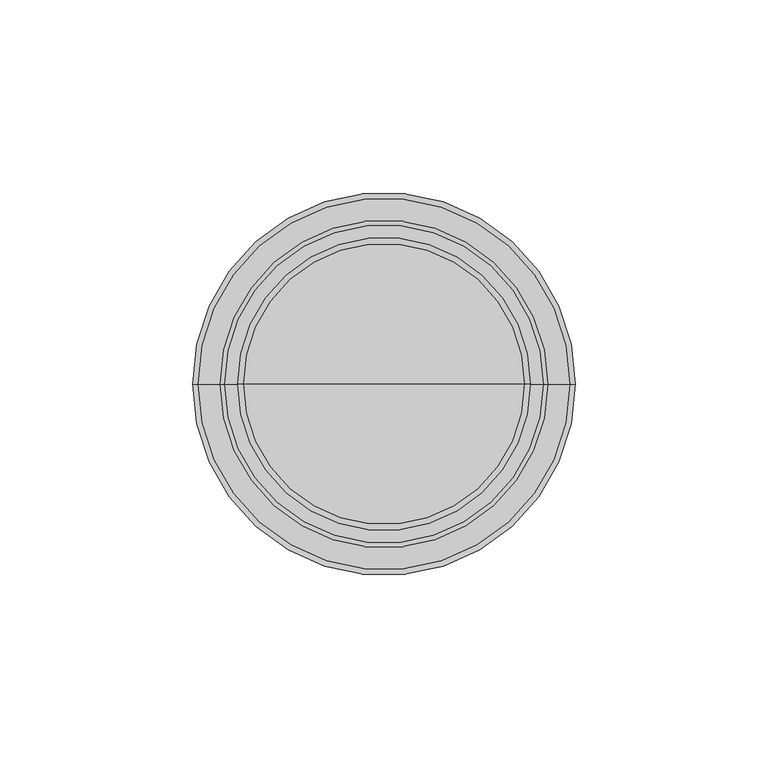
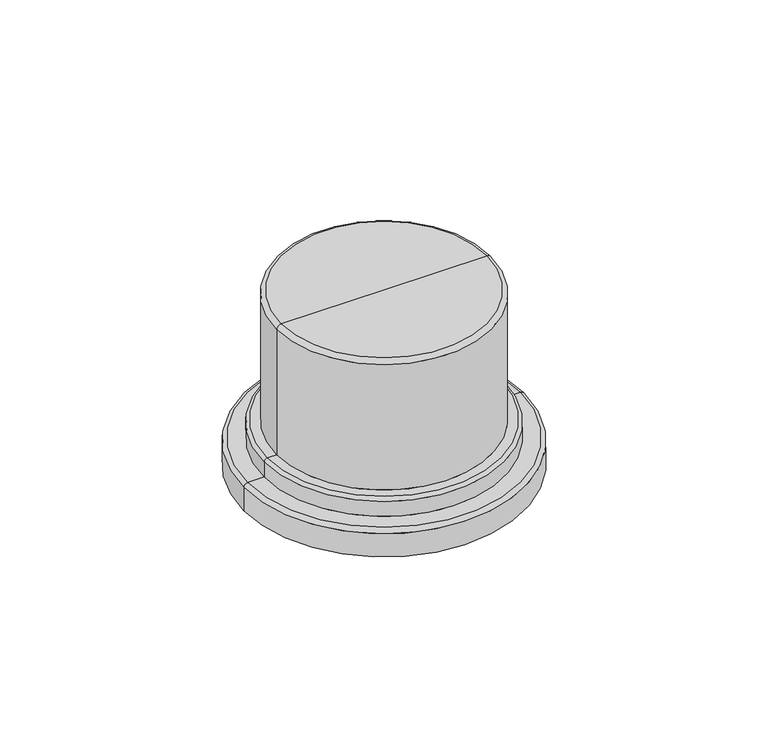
"""IFC4 building model written with IfcOpenShell, lengths in millimetres: proxy geometry, DL 10-165_T plus-EN54 : DL 10-165/T plus-EN54."""

from ifc_helpers import new_model, si_unit, point, frame, origin, place, context, project, spatial, polyline, circle_curve, ellipse_curve, trimmed, source, transform, mapped, element, save
from ifc_brep_helpers import plane_surface, cylinder_surface, revolved_surface, advanced_brep


def communication_devices_d1a9b3c7(model_context):
    return source(origin(), model_context, "Body", "AdvancedBrep", [
        advanced_brep(
        [(38.0, 0.0, 63.9100215), (-38.0, 0.0, 63.9100215), (-36.5400415, 0.0, 65.36998), (36.5400415, 0.0, 65.36998), (38.0, 0.0, 16.869995), (-38.0, 0.0, 16.869995), (41.3538514, 0.0, 16.869995), (-41.3538514, 0.0, 16.869995), (42.496521, 0.0, 15.7273254), (-42.496521, 0.0, 15.7273254), (42.496521, 0.0, 10.0735375), (-42.496521, 0.0, 10.0735375), (48.2696659, 0.0, 10.0735375), (-48.2696659, 0.0, 10.0735375), (49.710327, 0.0, 0.0), (-49.710327, 0.0, 0.0), (-49.710327, 0.0, 8.6328765), (49.710327, 0.0, 8.6328765), (42.496521, 0.0, 0.0), (-42.496521, 0.0, 0.0), (42.496521, 0.0, 7.9599852), (-42.496521, 0.0, 7.9599852), (34.2766451, 0.0, 7.9599852), (-34.2766451, 0.0, 7.9599852), (34.2766451, 0.0, 62.9599852), (-34.2766451, 0.0, 62.9599852), (0.0, 0.0, 62.9599852), (0.0, 0.0, 65.36998)],
        [
            (0, 1, circle_curve(frame((0.0, 0.0, 63.9100215), z_axis=(0.0, 0.0, 1.0), x_axis=(-1.0, 0.0, 0.0)), 38.0)),
            (1, 2, circle_curve(frame((-36.5400415, 0.0, 63.9100215), z_axis=(0.0, 1.0, 0.0), x_axis=(1.0, 0.0, 0.0)), 1.4599585)),
            (2, 3, circle_curve(frame((0.0, 0.0, 65.36998), z_axis=(0.0, 0.0, -1.0), x_axis=(-1.0, 0.0, 0.0)), 36.5400415)),
            (3, 0, circle_curve(frame((36.5400415, 0.0, 63.9100215), z_axis=(0.0, 1.0, 0.0), x_axis=(-1.0, 0.0, 0.0)), 1.4599585)),
            (1, 0, circle_curve(frame((0.0, 0.0, 63.9100215), z_axis=(0.0, 0.0, 1.0), x_axis=(-1.0, 0.0, 0.0)), 38.0)),
            (3, 2, circle_curve(frame((0.0, 0.0, 65.36998), z_axis=(0.0, 0.0, -1.0), x_axis=(-1.0, 0.0, 0.0)), 36.5400415)),
            (4, 5, circle_curve(frame((0.0, 0.0, 16.869995), z_axis=(0.0, 0.0, 1.0), x_axis=(-1.0, 0.0, 0.0)), 38.0)),
            (5, 1),
            (0, 4),
            (5, 4, circle_curve(frame((0.0, 0.0, 16.869995), z_axis=(0.0, 0.0, 1.0), x_axis=(-1.0, 0.0, 0.0)), 38.0)),
            (6, 7, circle_curve(frame((0.0, 0.0, 16.869995), z_axis=(0.0, 0.0, 1.0), x_axis=(-1.0, 0.0, 0.0)), 41.3538514)),
            (7, 5),
            (4, 6),
            (7, 6, circle_curve(frame((0.0, 0.0, 16.869995), z_axis=(0.0, 0.0, 1.0), x_axis=(-1.0, 0.0, 0.0)), 41.3538514)),
            (8, 9, circle_curve(frame((0.0, 0.0, 15.7273254), z_axis=(0.0, 0.0, 1.0), x_axis=(-1.0, 0.0, 0.0)), 42.496521)),
            (9, 7, circle_curve(frame((-41.3538514, 0.0, 15.7273254), z_axis=(0.0, 1.0, 0.0), x_axis=(1.0, 0.0, 0.0)), 1.1426696)),
            (6, 8, circle_curve(frame((41.3538514, 0.0, 15.7273254), z_axis=(0.0, 1.0, 0.0), x_axis=(-1.0, 0.0, 0.0)), 1.1426696)),
            (9, 8, circle_curve(frame((0.0, 0.0, 15.7273254), z_axis=(0.0, 0.0, 1.0), x_axis=(-1.0, 0.0, 0.0)), 42.496521)),
            (10, 11, circle_curve(frame((0.0, 0.0, 10.0735375), z_axis=(0.0, 0.0, 1.0), x_axis=(-1.0, 0.0, 0.0)), 42.496521)),
            (11, 9),
            (8, 10),
            (11, 10, circle_curve(frame((0.0, 0.0, 10.0735375), z_axis=(0.0, 0.0, 1.0), x_axis=(-1.0, 0.0, 0.0)), 42.496521)),
            (12, 13, circle_curve(frame((0.0, 0.0, 10.0735375), z_axis=(0.0, 0.0, 1.0), x_axis=(-1.0, 0.0, 0.0)), 48.2696659)),
            (13, 11),
            (10, 12),
            (13, 12, circle_curve(frame((0.0, 0.0, 10.0735375), z_axis=(0.0, 0.0, 1.0), x_axis=(-1.0, 0.0, 0.0)), 48.2696659)),
            (14, 15, circle_curve(frame((0.0, 0.0, 0.0), z_axis=(0.0, 0.0, 1.0), x_axis=(-1.0, 0.0, 0.0)), 49.710327)),
            (15, 16),
            (16, 17, circle_curve(frame((0.0, 0.0, 8.6328765), z_axis=(0.0, 0.0, -1.0), x_axis=(-1.0, 0.0, 0.0)), 49.710327)),
            (17, 14),
            (15, 14, circle_curve(frame((0.0, 0.0, 0.0), z_axis=(0.0, 0.0, 1.0), x_axis=(-1.0, 0.0, 0.0)), 49.710327)),
            (17, 16, circle_curve(frame((0.0, 0.0, 8.6328765), z_axis=(0.0, 0.0, -1.0), x_axis=(-1.0, 0.0, 0.0)), 49.710327)),
            (18, 19, circle_curve(frame((0.0, 0.0, 0.0), z_axis=(0.0, 0.0, 1.0), x_axis=(-1.0, 0.0, 0.0)), 42.496521)),
            (19, 15),
            (14, 18),
            (19, 18, circle_curve(frame((0.0, 0.0, 0.0), z_axis=(0.0, 0.0, 1.0), x_axis=(-1.0, 0.0, 0.0)), 42.496521)),
            (20, 21, circle_curve(frame((0.0, 0.0, 7.9599852), z_axis=(0.0, 0.0, 1.0), x_axis=(-1.0, 0.0, 0.0)), 42.496521)),
            (21, 19),
            (18, 20),
            (21, 20, circle_curve(frame((0.0, 0.0, 7.9599852), z_axis=(0.0, 0.0, 1.0), x_axis=(-1.0, 0.0, 0.0)), 42.496521)),
            (22, 23, circle_curve(frame((0.0, 0.0, 7.9599852), z_axis=(0.0, 0.0, 1.0), x_axis=(-1.0, 0.0, 0.0)), 34.2766451)),
            (23, 21),
            (20, 22),
            (23, 22, circle_curve(frame((0.0, 0.0, 7.9599852), z_axis=(0.0, 0.0, 1.0), x_axis=(-1.0, 0.0, 0.0)), 34.2766451)),
            (24, 25, circle_curve(frame((0.0, 0.0, 62.9599852), z_axis=(0.0, 0.0, 1.0), x_axis=(-1.0, 0.0, 0.0)), 34.2766451)),
            (25, 23),
            (22, 24),
            (25, 24, circle_curve(frame((0.0, 0.0, 62.9599852), z_axis=(0.0, 0.0, 1.0), x_axis=(-1.0, 0.0, 0.0)), 34.2766451)),
            (26, 25),
            (24, 26),
            (2, 27),
            (27, 3),
            (16, 13, circle_curve(frame((-48.2696659, 0.0, 8.6328765), z_axis=(0.0, 1.0, 0.0), x_axis=(1.0, 0.0, 0.0)), 1.4406611)),
            (12, 17, circle_curve(frame((48.2696659, 0.0, 8.6328765), z_axis=(0.0, 1.0, 0.0), x_axis=(-1.0, 0.0, 0.0)), 1.4406611)),
        ],
        [
            revolved_surface(trimmed(ellipse_curve(frame((-36.5400415, 0.0, 63.9100215), z_axis=(0.0, -1.0, 0.0), x_axis=(1.0, 0.0, 0.0)), 1.4599585, 1.4599585), [point((-36.5400415, 0.0, 65.36998))], [point((-38.0, 0.0, 63.9100215))], True, "CARTESIAN"), (0.0, 0.0, 65.36998), (0.0, 0.0, -1.0)),
            cylinder_surface(frame((0.0, 0.0, 65.36998), z_axis=(0.0, 0.0, -1.0), x_axis=(-1.0, 0.0, 0.0)), 38.0),
            plane_surface(frame((0.0, 0.0, 16.869995), z_axis=(0.0, 0.0, 1.0), x_axis=(-1.0, 0.0, 0.0))),
            revolved_surface(trimmed(ellipse_curve(frame((-41.3538514, 0.0, 15.7273254), z_axis=(0.0, -1.0, 0.0), x_axis=(1.0, 0.0, 0.0)), 1.1426696, 1.1426696), [point((-41.3538514, 0.0, 16.869995))], [point((-42.496521, 0.0, 15.7273254))], True, "CARTESIAN"), (0.0, 0.0, 65.36998), (0.0, 0.0, -1.0)),
            cylinder_surface(frame((0.0, 0.0, 65.36998), z_axis=(0.0, 0.0, -1.0), x_axis=(-1.0, 0.0, 0.0)), 42.496521),
            plane_surface(frame((0.0, 0.0, 10.0735375), z_axis=(0.0, 0.0, 1.0), x_axis=(-1.0, 0.0, 0.0))),
            cylinder_surface(frame((0.0, 0.0, 65.36998), z_axis=(0.0, 0.0, -1.0), x_axis=(-1.0, 0.0, 0.0)), 49.710327),
            plane_surface(frame((0.0, 0.0, 0.0), z_axis=(0.0, 0.0, -1.0), x_axis=(-1.0, 0.0, 0.0))),
            revolved_surface(polyline([(-42.496521, 0.0, 0.0), (-42.496521, 0.0, 7.959985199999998)]), (0.0, 0.0, 65.36998), (0.0, 0.0, -1.0)),
            plane_surface(frame((0.0, 0.0, 7.9599852), z_axis=(0.0, 0.0, -1.0), x_axis=(-1.0, 0.0, 0.0))),
            revolved_surface(polyline([(-34.2766451, 0.0, 7.959985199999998), (-34.2766451, 0.0, 62.9599852)]), (0.0, 0.0, 65.36998), (0.0, 0.0, -1.0)),
            plane_surface(frame((0.0, 0.0, 62.9599852), z_axis=(0.0, 0.0, -1.0), x_axis=(-1.0, 0.0, 0.0))),
            plane_surface(frame((0.0, 0.0, 65.36998), z_axis=(0.0, 0.0, 1.0), x_axis=(-1.0, 0.0, 0.0))),
            revolved_surface(trimmed(ellipse_curve(frame((-48.2696659, 0.0, 8.6328765), z_axis=(0.0, -1.0, 0.0), x_axis=(1.0, 0.0, 0.0)), 1.4406611, 1.4406611), [point((-48.2696659, 0.0, 10.0735375))], [point((-49.710327, 0.0, 8.6328765))], True, "CARTESIAN"), (0.0, 0.0, 65.36998), (0.0, 0.0, -1.0)),
        ],
        [
            (0, [[1, 2, 3, 4]]),
            (0, [[5, -4, 6, -2]]),
            (1, [[7, 8, -1, 9]]),
            (1, [[10, -9, -5, -8]]),
            (2, [[11, 12, -7, 13]]),
            (2, [[14, -13, -10, -12]]),
            (3, [[15, 16, -11, 17]]),
            (3, [[18, -17, -14, -16]]),
            (4, [[19, 20, -15, 21]]),
            (4, [[22, -21, -18, -20]]),
            (5, [[23, 24, -19, 25]]),
            (5, [[26, -25, -22, -24]]),
            (6, [[27, 28, 29, 30]]),
            (6, [[31, -30, 32, -28]]),
            (7, [[33, 34, -27, 35]]),
            (7, [[36, -35, -31, -34]]),
            (8, [[37, 38, -33, 39]]),
            (8, [[40, -39, -36, -38]]),
            (9, [[41, 42, -37, 43]]),
            (9, [[44, -43, -40, -42]]),
            (10, [[45, 46, -41, 47]]),
            (10, [[48, -47, -44, -46]]),
            (11, [[49, -45, 50]]),
            (11, [[-50, -48, -49]]),
            (12, [[-3, 51, 52]]),
            (12, [[-6, -52, -51]]),
            (13, [[-29, 53, -23, 54]]),
            (13, [[-32, -54, -26, -53]]),
        ],
    ),
    ])


if __name__ == "__main__":
    model = new_model("IFC4")
    model_context = context("Model", 3, world=origin())
    ifc_project = project(units=[si_unit("LENGTHUNIT", "METRE", prefix="MILLI")], contexts=[model_context])
    site = spatial("IfcSite", under=ifc_project)
    building = spatial("IfcBuilding", under=site)
    placement = place(None, origin())
    communication_devices_shape = communication_devices_d1a9b3c7(model_context)
    element("IfcBuildingElementProxy", 1, Name="DL 10-165_T plus-EN54 : DL 10-165/T plus-EN54", ObjectType="DL 10-165_T plus-EN54 : DL 10-165/T plus-EN54", at=placement, inside=building, context=model_context, shape_type="MappedRepresentation", body=[
        mapped(communication_devices_shape, transform((0.0, 0.0, 0.0), x_axis=(1.0, 0.0, 0.0), y_axis=(0.0, 1.0, 0.0), z_axis=(0.0, 0.0, 1.0))),
    ])
    save(model, "model.ifc")
